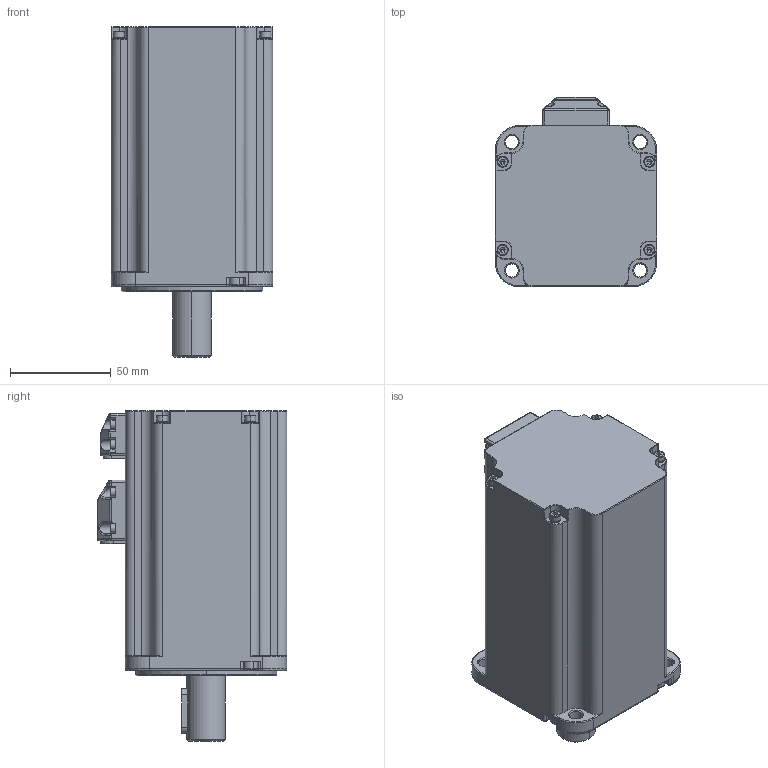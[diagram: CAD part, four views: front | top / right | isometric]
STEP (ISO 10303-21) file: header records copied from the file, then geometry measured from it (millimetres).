
FILE_DESCRIPTION (( 'STEP AP203' ), '1' );
FILE_NAME ('SMS080-10030D10M0BL .STEP', '2022-02-09T00:42:52', ( '' ), ( '' ), 'SwSTEP 2.0', 'SolidWorks 2018', '' );
FILE_SCHEMA (( 'CONFIG_CONTROL_DESIGN' ));
Length unit declared in the file: millimetre
Products named in the file (1): SMS080-10030D10M0BL 
Bounding box: 80 x 94 x 163.9 mm (x, y, z)
Volume: 751414.4 mm3; surface area: 68829.3 mm2
Topology: 1 solids, 24 shells, 1308 faces, 3177 edges, 1900 vertices
Faces by surface type: cylinder 507, plane 482, torus 197, cone 76, sphere 30, bspline 16
Entity records: 40865 total; most frequent: CARTESIAN_POINT 9981, DIRECTION 6903, ORIENTED_EDGE 6230, EDGE_CURVE 3115, AXIS2_PLACEMENT_3D 2719, VERTEX_POINT 1900, LINE 1465, VECTOR 1465
